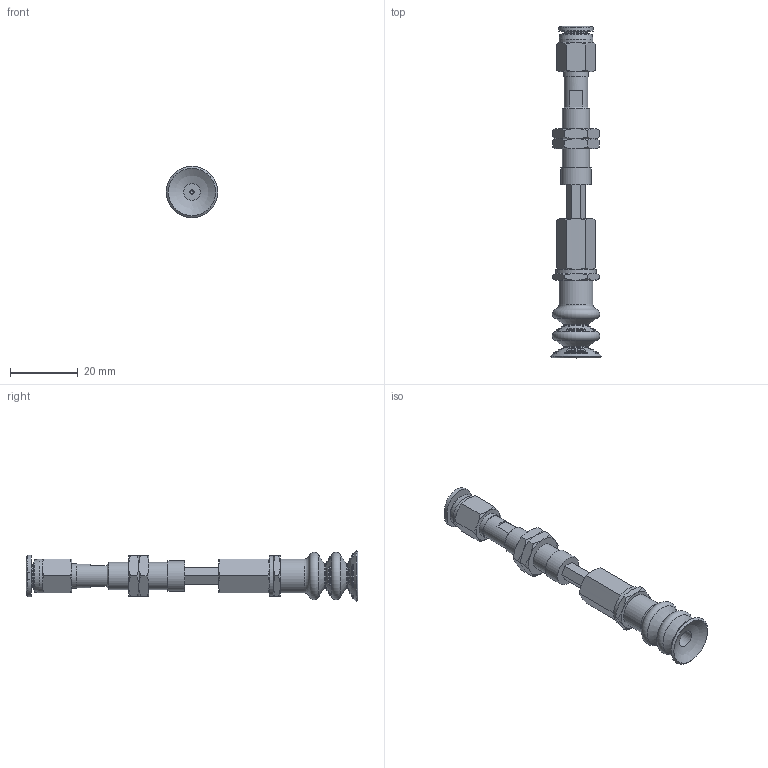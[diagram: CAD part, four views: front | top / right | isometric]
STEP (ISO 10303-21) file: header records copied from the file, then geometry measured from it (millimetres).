
FILE_DESCRIPTION(('STEP AP203'),'1');
FILE_NAME('-O.stp','2025-08-27T01:52:42',(' '),(' '),'Spatial InterOp 3D',' ',' ');
FILE_SCHEMA(('CONFIG_CONTROL_DESIGN'));
Length unit declared in the file: millimetre
Products named in the file (8): BNABPCTH-15-10-※-O; ADAPTER; NAPCTH-10-10-MBODY; Adapter_napc-15-T; Nut napc_h-15-10; NAPCTH-15-10-FBODY; BPCG-15-※; PC-C_06-M5
Assembly tree (8 placements, depth 2):
  BNABPCTH-15-10-※-O
    ADAPTER
    NAPCTH-10-10-MBODY
    Adapter_napc-15-T
    Nut napc_h-15-10  x2
    NAPCTH-15-10-FBODY
    BPCG-15-※
    PC-C_06-M5
Bounding box: 15.2 x 98.18 x 15.2 mm (x, y, z)
Volume: 5581.2 mm3; surface area: 6785.3 mm2
Topology: 7 solids, 10 shells, 281 faces, 790 edges, 505 vertices
Faces by surface type: cone 79, plane 77, sphere 58, torus 36, cylinder 24, bspline 4, revolution 3
Full cylindrical faces by diameter (mm): 1.25 x1, 4 x2, 4.134 x2, 5 x6, 7 x2, 7.188 x2, 7.4 x1, 8 x1, 8.2 x1, 9 x1, 10 x2, 12 x1
Entity records: 8155 total; most frequent: CARTESIAN_POINT 2466, DIRECTION 1135, ORIENTED_EDGE 990, AXIS2_PLACEMENT_3D 526, EDGE_CURVE 497, EDGE_LOOP 358, VERTEX_POINT 346, CIRCLE 267
